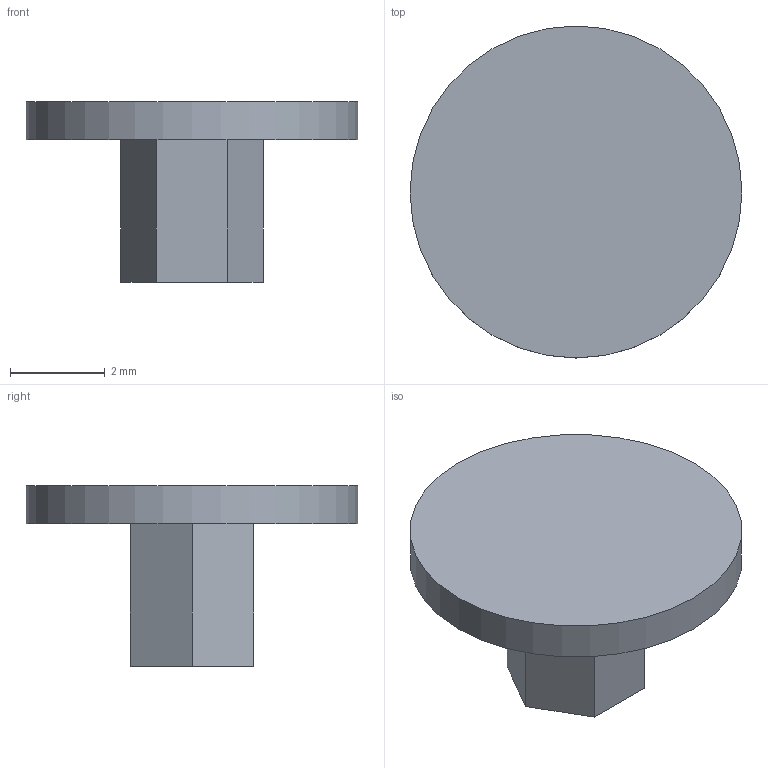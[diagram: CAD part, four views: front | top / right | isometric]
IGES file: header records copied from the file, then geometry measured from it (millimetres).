
Start section: Data from Parasolid IGES Translator 20.0.26, Copyright(c) 2006 Siemens P LM Software. All Rights Reserved.
Global section: file name: 9298856.igs; native system: By Siemens PLM Incorporated; preprocessor: XPlus GENERIC/IGES 20.0.26; author: Noname; organization: Noname; date: 20210826.155314; units: millimetre
Bounding box: 7 x 7 x 3.8 mm (x, y, z)
Surface area: 135.7 mm2 (no closed solid volume)
Topology: 0 solids, 0 shells, 12 faces, 48 edges, 44 vertices
Faces by surface type: extrusion 10, revolution 2
